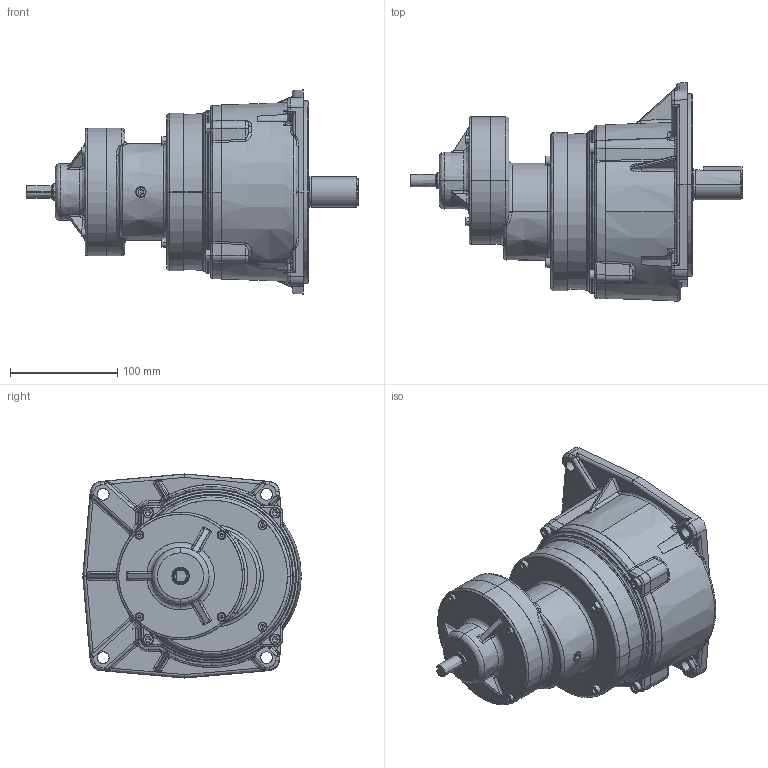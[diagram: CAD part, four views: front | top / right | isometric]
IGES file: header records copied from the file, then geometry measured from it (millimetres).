
Start section: SolidWorks IGES file using analytic representation for surfaces
Bounding box: 309 x 203.34 x 190 mm (x, y, z)
Surface area: 347783.3 mm2 (no closed solid volume)
Topology: 0 solids, 0 shells, 1032 faces, 13203 edges, 13165 vertices
Faces by surface type: bspline 634, revolution 398
